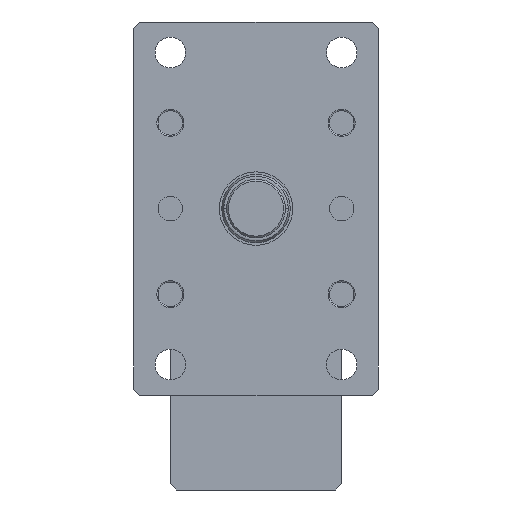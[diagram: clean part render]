
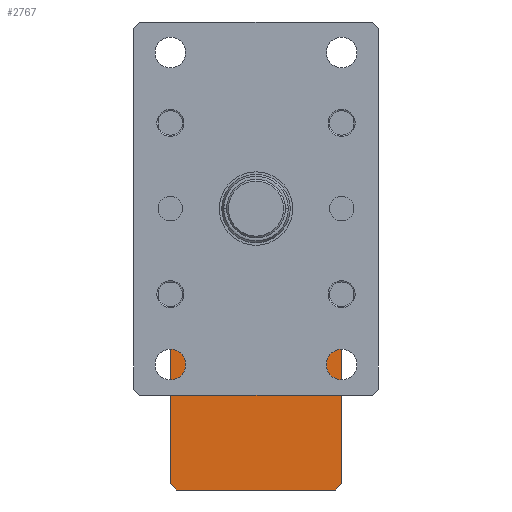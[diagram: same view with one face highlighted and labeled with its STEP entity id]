
A CAD part, left-side view. The second image highlights one B-rep face of the part: STEP entity #2767.
In plain terms, the highlighted planar face has unit normal (-1, 0, 0).
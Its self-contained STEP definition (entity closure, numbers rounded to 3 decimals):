
#33 = VECTOR ( 'NONE', #4103, 1000. ) ;
#91 = EDGE_CURVE ( 'NONE', #3203, #2170, #2749, .T. ) ;
#109 = LINE ( 'NONE', #1817, #3760 ) ;
#126 = VERTEX_POINT ( 'NONE', #1011 ) ;
#159 = CARTESIAN_POINT ( 'NONE',  ( 427.5, 70., -95. ) ) ;
#255 = LINE ( 'NONE', #4129, #33 ) ;
#711 = LINE ( 'NONE', #3944, #7849 ) ;
#890 = ORIENTED_EDGE ( 'NONE', *, *, #3311, .T. ) ;
#1011 = CARTESIAN_POINT ( 'NONE',  ( 427.5, -70., -225. ) ) ;
#1310 = EDGE_LOOP ( 'NONE', ( #6832, #6376, #6803, #890, #8495, #8858, #1843, #1861 ) ) ;
#1439 = DIRECTION ( 'NONE',  ( 0., 1., 0. ) ) ;
#1674 = VECTOR ( 'NONE', #5865, 1000. ) ;
#1817 = CARTESIAN_POINT ( 'NONE',  ( 427.5, 70., -90. ) ) ;
#1843 = ORIENTED_EDGE ( 'NONE', *, *, #6264, .F. ) ;
#1861 = ORIENTED_EDGE ( 'NONE', *, *, #4868, .T. ) ;
#1946 = VERTEX_POINT ( 'NONE', #5934 ) ;
#1982 = DIRECTION ( 'NONE',  ( 0., 1., 0. ) ) ;
#2170 = VERTEX_POINT ( 'NONE', #5126 ) ;
#2668 = VECTOR ( 'NONE', #1982, 1000. ) ;
#2749 = LINE ( 'NONE', #5099, #8283 ) ;
#2767 = ADVANCED_FACE ( 'NONE', ( #8795 ), #5543, .F. ) ;
#3137 = EDGE_CURVE ( 'NONE', #4529, #1946, #255, .T. ) ;
#3170 = CARTESIAN_POINT ( 'NONE',  ( 427.5, 65., -230. ) ) ;
#3203 = VERTEX_POINT ( 'NONE', #6227 ) ;
#3311 = EDGE_CURVE ( 'NONE', #5637, #2170, #8144, .T. ) ;
#3421 = VECTOR ( 'NONE', #7336, 1000. ) ;
#3760 = VECTOR ( 'NONE', #4512, 1000. ) ;
#3799 = CARTESIAN_POINT ( 'NONE',  ( 427.5, -65., -230. ) ) ;
#3944 = CARTESIAN_POINT ( 'NONE',  ( 427.5, -65., -230. ) ) ;
#4103 = DIRECTION ( 'NONE',  ( 0., 0.707, 0.707 ) ) ;
#4129 = CARTESIAN_POINT ( 'NONE',  ( 427.5, -70., -95. ) ) ;
#4162 = CARTESIAN_POINT ( 'NONE',  ( 427.5, 70., -230. ) ) ;
#4425 = VECTOR ( 'NONE', #4956, 1000. ) ;
#4512 = DIRECTION ( 'NONE',  ( 0., 1., 0. ) ) ;
#4521 = EDGE_CURVE ( 'NONE', #126, #4529, #6981, .T. ) ;
#4529 = VERTEX_POINT ( 'NONE', #8652 ) ;
#4868 = EDGE_CURVE ( 'NONE', #5617, #126, #711, .T. ) ;
#4956 = DIRECTION ( 'NONE',  ( 0., 0.707, -0.707 ) ) ;
#5099 = CARTESIAN_POINT ( 'NONE',  ( 427.5, 70., -230. ) ) ;
#5126 = CARTESIAN_POINT ( 'NONE',  ( 427.5, 70., -95. ) ) ;
#5543 = PLANE ( 'NONE',  #8681 ) ;
#5569 = DIRECTION ( 'NONE',  ( 1., 0., 0. ) ) ;
#5617 = VERTEX_POINT ( 'NONE', #3799 ) ;
#5637 = VERTEX_POINT ( 'NONE', #8683 ) ;
#5865 = DIRECTION ( 'NONE',  ( 0., 0., 1. ) ) ;
#5934 = CARTESIAN_POINT ( 'NONE',  ( 427.5, -65., -90. ) ) ;
#6112 = CARTESIAN_POINT ( 'NONE',  ( 427.5, 70., -230. ) ) ;
#6227 = CARTESIAN_POINT ( 'NONE',  ( 427.5, 70., -225. ) ) ;
#6264 = EDGE_CURVE ( 'NONE', #5617, #8161, #7997, .T. ) ;
#6376 = ORIENTED_EDGE ( 'NONE', *, *, #3137, .T. ) ;
#6458 = DIRECTION ( 'NONE',  ( 0., 0., 1. ) ) ;
#6803 = ORIENTED_EDGE ( 'NONE', *, *, #7518, .T. ) ;
#6832 = ORIENTED_EDGE ( 'NONE', *, *, #4521, .T. ) ;
#6981 = LINE ( 'NONE', #7236, #1674 ) ;
#7236 = CARTESIAN_POINT ( 'NONE',  ( 427.5, -70., -230. ) ) ;
#7336 = DIRECTION ( 'NONE',  ( 0., -0.707, -0.707 ) ) ;
#7455 = DIRECTION ( 'NONE',  ( 0., -0.707, 0.707 ) ) ;
#7518 = EDGE_CURVE ( 'NONE', #1946, #5637, #109, .T. ) ;
#7849 = VECTOR ( 'NONE', #7455, 1000. ) ;
#7997 = LINE ( 'NONE', #6112, #2668 ) ;
#8144 = LINE ( 'NONE', #159, #4425 ) ;
#8151 = EDGE_CURVE ( 'NONE', #3203, #8161, #8953, .T. ) ;
#8161 = VERTEX_POINT ( 'NONE', #8718 ) ;
#8283 = VECTOR ( 'NONE', #6458, 1000. ) ;
#8495 = ORIENTED_EDGE ( 'NONE', *, *, #91, .F. ) ;
#8652 = CARTESIAN_POINT ( 'NONE',  ( 427.5, -70., -95. ) ) ;
#8681 = AXIS2_PLACEMENT_3D ( 'NONE', #4162, #5569, #1439 ) ;
#8683 = CARTESIAN_POINT ( 'NONE',  ( 427.5, 65., -90. ) ) ;
#8718 = CARTESIAN_POINT ( 'NONE',  ( 427.5, 65., -230. ) ) ;
#8795 = FACE_OUTER_BOUND ( 'NONE', #1310, .T. ) ;
#8858 = ORIENTED_EDGE ( 'NONE', *, *, #8151, .T. ) ;
#8953 = LINE ( 'NONE', #3170, #3421 ) ;
